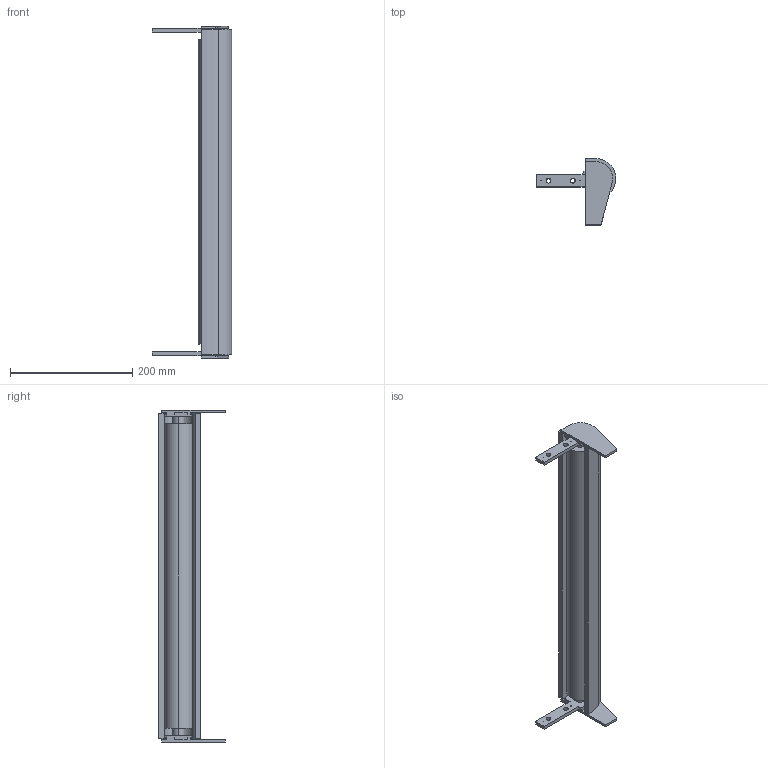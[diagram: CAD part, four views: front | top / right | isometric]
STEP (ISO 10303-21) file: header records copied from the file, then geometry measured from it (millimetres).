
FILE_DESCRIPTION (( 'STEP AP214' ), '1' );
FILE_NAME ('FS-160-MTS-100.ALU omloop 550.STEP', '2017-02-08T12:08:36', ( '' ), ( '' ), 'SwSTEP 2.0', 'SolidWorks 2016', '' );
FILE_SCHEMA (( 'AUTOMOTIVE_DESIGN' ));
Length unit declared in the file: millimetre
Products named in the file (1): FS-160-MTS-100.ALU omloop 550
Bounding box: 130.3 x 109 x 544 mm (x, y, z)
Volume: 1451911.3 mm3; surface area: 246333.2 mm2
Topology: 2 solids, 2 shells, 70 faces, 186 edges, 124 vertices
Faces by surface type: cylinder 36, plane 34
Entity records: 2277 total; most frequent: DIRECTION 400, CARTESIAN_POINT 381, ORIENTED_EDGE 372, EDGE_CURVE 186, AXIS2_PLACEMENT_3D 143, VERTEX_POINT 124, LINE 114, VECTOR 114
